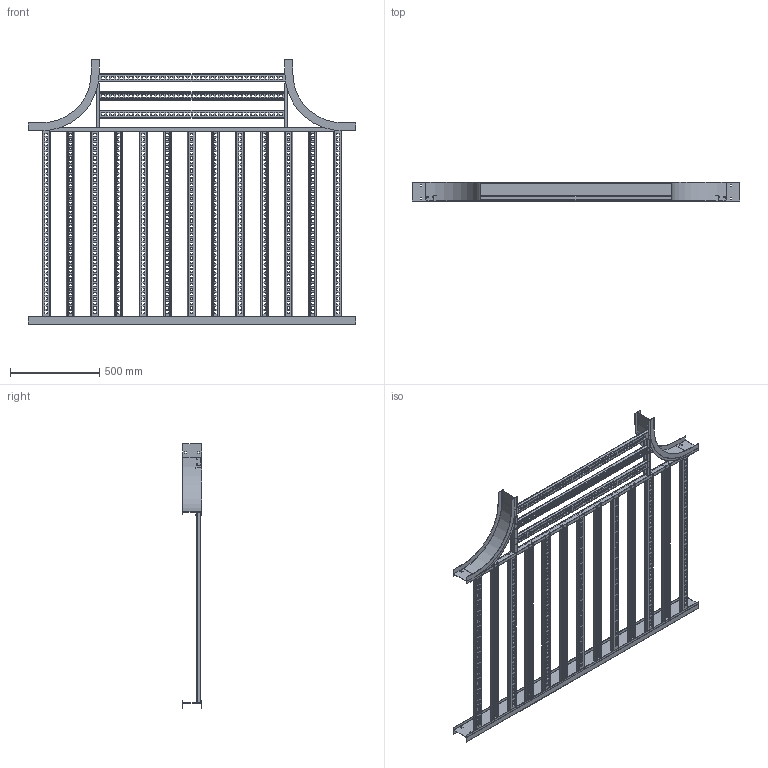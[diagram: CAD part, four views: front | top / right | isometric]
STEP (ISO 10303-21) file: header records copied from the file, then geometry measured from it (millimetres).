
FILE_DESCRIPTION((''),'2;1');
FILE_NAME('AHF442VHT12_ASM','2010-01-27T',('erouzier'),(''),'PRO/ENGINEER BY PARAMETRIC TECHNOLOGY CORPORATION, 2008510','PRO/ENGINEER BY PARAMETRIC TECHNOLOGY CORPORATION, 2008510','');
FILE_SCHEMA(('CONFIG_CONTROL_DESIGN'));
Length unit declared in the file: inch
Products named in the file (18): CDS001810-4-90-12-I; CDS013845-4-72; CDS000495_GEN_AF9; CDS002159L42-P_AF14; CDS002159L42-P_AF15; CDS002159L42-P_AF16; CDS002159L42-P_AF17; CDS002159L42-P; CDS002159L42-P_AF18; CDS002159L42-P_AF19; CDS002159L42-P_AF20; CDS002159L42-P_AF21; CDS000495_GEN_AF10; CDS000495_GEN_AF11; CDS002159L42-P_AF11; CDS002159L42-P_AF12; CDS002159L42-P_AF13; AHF442VHT12_ASM
Assembly tree (22 placements, depth 2):
  AHF442VHT12_ASM
    CDS001810-4-90-12-I  x2
    CDS013845-4-72
    CDS000495_GEN_AF9
    CDS002159L42-P_AF14
    CDS002159L42-P_AF15
    CDS002159L42-P_AF16
    CDS002159L42-P_AF17
    CDS002159L42-P  x5
    CDS002159L42-P_AF18
    CDS002159L42-P_AF19
    CDS002159L42-P_AF20
    CDS002159L42-P_AF21
    CDS000495_GEN_AF10
    CDS000495_GEN_AF11
    CDS002159L42-P_AF11
    CDS002159L42-P_AF12
    CDS002159L42-P_AF13
Bounding box: 1832.61 x 106.43 x 1479.8 mm (x, y, z)
Volume: 3694087 mm3; surface area: 5240210.7 mm2
Topology: 22 solids, 22 shells, 5744 faces, 17100 edges, 11400 vertices
Faces by surface type: plane 2996, cylinder 2748
Entity records: 147727 total; most frequent: CARTESIAN_POINT 25682, ORIENTED_EDGE 25608, DIRECTION 25604, EDGE_CURVE 12804, VECTOR 8688, LINE 8688, VERTEX_POINT 8536, AXIS2_PLACEMENT_3D 8458
